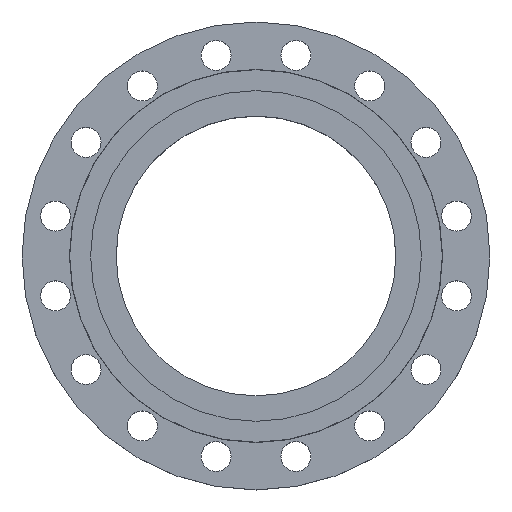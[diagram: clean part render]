
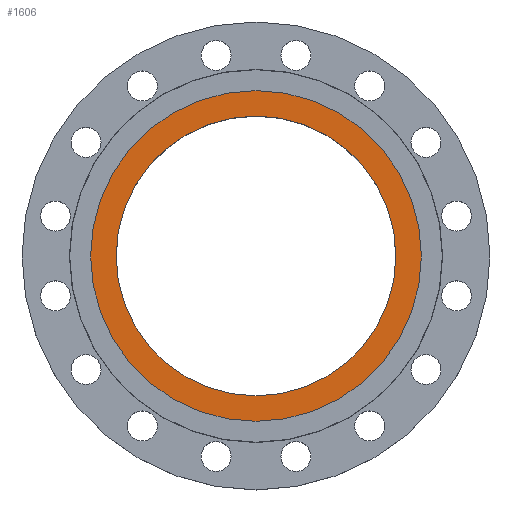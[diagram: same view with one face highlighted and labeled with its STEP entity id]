
A CAD part, top view. The second image highlights one B-rep face of the part: STEP entity #1606.
In plain terms, the highlighted planar face has unit normal (0, 0, 1).
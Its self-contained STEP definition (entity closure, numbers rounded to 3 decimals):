
#151 = CARTESIAN_POINT ( 'NONE',  ( -182., 0., -4.5 ) ) ;
#312 = CARTESIAN_POINT ( 'NONE',  ( 182., 0., -4.5 ) ) ;
#370 = CARTESIAN_POINT ( 'NONE',  ( 153.95, 0., -4.5 ) ) ;
#375 = DIRECTION ( 'NONE',  ( 1., 0., 0. ) ) ;
#377 = DIRECTION ( 'NONE',  ( 0., 0., -1. ) ) ;
#378 = CARTESIAN_POINT ( 'NONE',  ( 0., 0., -4.5 ) ) ;
#430 = CARTESIAN_POINT ( 'NONE',  ( -153.95, 0., -4.5 ) ) ;
#487 = CIRCLE ( 'NONE', #494, 182. ) ;
#494 = AXIS2_PLACEMENT_3D ( 'NONE', #1634, #1633, #1630 ) ;
#596 = AXIS2_PLACEMENT_3D ( 'NONE', #1617, #1613, #1611 ) ;
#662 = CIRCLE ( 'NONE', #665, 153.95 ) ;
#665 = AXIS2_PLACEMENT_3D ( 'NONE', #378, #377, #375 ) ;
#847 = EDGE_LOOP ( 'NONE', ( #1059, #1046 ) ) ;
#1019 = VERTEX_POINT ( 'NONE', #430 ) ;
#1046 = ORIENTED_EDGE ( 'NONE', *, *, #1466, .F. ) ;
#1059 = ORIENTED_EDGE ( 'NONE', *, *, #1519, .F. ) ;
#1061 = ORIENTED_EDGE ( 'NONE', *, *, #1478, .T. ) ;
#1071 = ORIENTED_EDGE ( 'NONE', *, *, #1099, .T. ) ;
#1087 = EDGE_LOOP ( 'NONE', ( #1071, #1061 ) ) ;
#1099 = EDGE_CURVE ( 'NONE', #1019, #1108, #662, .T. ) ;
#1108 = VERTEX_POINT ( 'NONE', #370 ) ;
#1149 = CIRCLE ( 'NONE', #596, 153.95 ) ;
#1160 = VERTEX_POINT ( 'NONE', #312 ) ;
#1191 = CIRCLE ( 'NONE', #1192, 182. ) ;
#1192 = AXIS2_PLACEMENT_3D ( 'NONE', #1469, #1467, #1463 ) ;
#1243 = DIRECTION ( 'NONE',  ( 1., 0., 0. ) ) ;
#1244 = DIRECTION ( 'NONE',  ( 0., 0., 1. ) ) ;
#1248 = CARTESIAN_POINT ( 'NONE',  ( 182., 0., -4.5 ) ) ;
#1251 = PLANE ( 'NONE',  #1327 ) ;
#1252 = FACE_OUTER_BOUND ( 'NONE', #847, .T. ) ;
#1255 = FACE_BOUND ( 'NONE', #1087, .T. ) ;
#1287 = VERTEX_POINT ( 'NONE', #151 ) ;
#1327 = AXIS2_PLACEMENT_3D ( 'NONE', #1248, #1244, #1243 ) ;
#1463 = DIRECTION ( 'NONE',  ( -1., 0., 0. ) ) ;
#1466 = EDGE_CURVE ( 'NONE', #1160, #1287, #487, .T. ) ;
#1467 = DIRECTION ( 'NONE',  ( 0., 0., -1. ) ) ;
#1469 = CARTESIAN_POINT ( 'NONE',  ( 0., 0., -4.5 ) ) ;
#1478 = EDGE_CURVE ( 'NONE', #1108, #1019, #1149, .T. ) ;
#1519 = EDGE_CURVE ( 'NONE', #1287, #1160, #1191, .T. ) ;
#1606 = ADVANCED_FACE ( 'NONE', ( #1255, #1252 ), #1251, .T. ) ;
#1611 = DIRECTION ( 'NONE',  ( 1., 0., 0. ) ) ;
#1613 = DIRECTION ( 'NONE',  ( 0., 0., -1. ) ) ;
#1617 = CARTESIAN_POINT ( 'NONE',  ( 0., 0., -4.5 ) ) ;
#1630 = DIRECTION ( 'NONE',  ( -1., 0., 0. ) ) ;
#1633 = DIRECTION ( 'NONE',  ( 0., 0., -1. ) ) ;
#1634 = CARTESIAN_POINT ( 'NONE',  ( 0., 0., -4.5 ) ) ;
